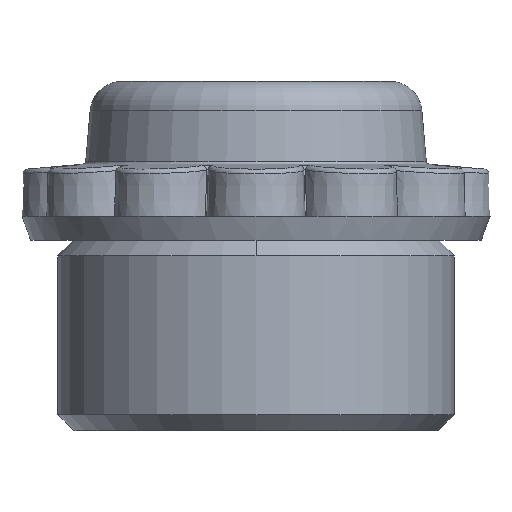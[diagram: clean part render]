
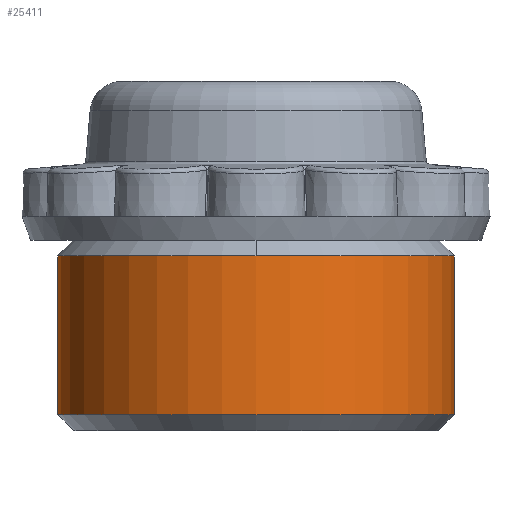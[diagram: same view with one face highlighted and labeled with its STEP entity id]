
A CAD part, left-side view. The second image highlights one B-rep face of the part: STEP entity #25411.
In plain terms, the highlighted cylindrical face has radius 12.5 mm (diameter 25 mm), a partial arc.
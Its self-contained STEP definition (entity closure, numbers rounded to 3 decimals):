
#8324 = VECTOR ( 'NONE', #8390, 1000. ) ;
#8325 = CARTESIAN_POINT ( 'NONE',  ( 0., 12.5, 0. ) ) ;
#8326 = LINE ( 'NONE', #8325, #8324 ) ;
#8384 = CARTESIAN_POINT ( 'NONE',  ( 0., -12.5, -11. ) ) ;
#8390 = DIRECTION ( 'NONE',  ( 0., 0., 1. ) ) ;
#8525 = CARTESIAN_POINT ( 'NONE',  ( 0., 12.5, -21. ) ) ;
#8583 = CARTESIAN_POINT ( 'NONE',  ( 0., -12.5, -21. ) ) ;
#8948 = DIRECTION ( 'NONE',  ( 0., 0., 1. ) ) ;
#8949 = AXIS2_PLACEMENT_3D ( 'NONE', #8955, #8948, #9010 ) ;
#8950 = CIRCLE ( 'NONE', #8949, 12.5 ) ;
#8955 = CARTESIAN_POINT ( 'NONE',  ( 0., 0., -11. ) ) ;
#8999 = CARTESIAN_POINT ( 'NONE',  ( -12.5, 0., -11. ) ) ;
#9010 = DIRECTION ( 'NONE',  ( 1., 0., 0. ) ) ;
#9084 = CARTESIAN_POINT ( 'NONE',  ( 0., 12.5, -11. ) ) ;
#9456 = DIRECTION ( 'NONE',  ( 0., 0., 1. ) ) ;
#9457 = VECTOR ( 'NONE', #9456, 1000. ) ;
#9458 = CARTESIAN_POINT ( 'NONE',  ( 0., -12.5, 0. ) ) ;
#9459 = LINE ( 'NONE', #9458, #9457 ) ;
#10478 = CIRCLE ( 'NONE', #10540, 12.5 ) ;
#10507 = CARTESIAN_POINT ( 'NONE',  ( 0., 0., 0. ) ) ;
#10523 = FACE_OUTER_BOUND ( 'NONE', #25170, .T. ) ;
#10537 = DIRECTION ( 'NONE',  ( 0., -1., 0. ) ) ;
#10538 = DIRECTION ( 'NONE',  ( 0., 0., 1. ) ) ;
#10539 = CARTESIAN_POINT ( 'NONE',  ( 0., 0., -21. ) ) ;
#10540 = AXIS2_PLACEMENT_3D ( 'NONE', #10539, #10538, #10537 ) ;
#10566 = DIRECTION ( 'NONE',  ( 1., 0., 0. ) ) ;
#10567 = DIRECTION ( 'NONE',  ( 0., 0., 1. ) ) ;
#10568 = AXIS2_PLACEMENT_3D ( 'NONE', #10574, #10567, #10566 ) ;
#10569 = CIRCLE ( 'NONE', #10568, 12.5 ) ;
#10570 = DIRECTION ( 'NONE',  ( 0., -1., 0. ) ) ;
#10571 = DIRECTION ( 'NONE',  ( 0., 0., 1. ) ) ;
#10572 = AXIS2_PLACEMENT_3D ( 'NONE', #10507, #10571, #10570 ) ;
#10573 = CYLINDRICAL_SURFACE ( 'NONE', #10572, 12.5 ) ;
#10574 = CARTESIAN_POINT ( 'NONE',  ( 0., 0., -11. ) ) ;
#23524 = EDGE_CURVE ( 'NONE', #23685, #24070, #8326, .T. ) ;
#23531 = VERTEX_POINT ( 'NONE', #8384 ) ;
#23685 = VERTEX_POINT ( 'NONE', #8525 ) ;
#23691 = VERTEX_POINT ( 'NONE', #8583 ) ;
#23931 = EDGE_CURVE ( 'NONE', #24070, #23938, #8950, .T. ) ;
#23938 = VERTEX_POINT ( 'NONE', #8999 ) ;
#24070 = VERTEX_POINT ( 'NONE', #9084 ) ;
#24514 = EDGE_CURVE ( 'NONE', #23691, #23531, #9459, .T. ) ;
#25170 = EDGE_LOOP ( 'NONE', ( #25244, #25245, #25414, #25416, #25425 ) ) ;
#25244 = ORIENTED_EDGE ( 'NONE', *, *, #23524, .F. ) ;
#25245 = ORIENTED_EDGE ( 'NONE', *, *, #25396, .T. ) ;
#25396 = EDGE_CURVE ( 'NONE', #23685, #23691, #10478, .T. ) ;
#25411 = ADVANCED_FACE ( 'NONE', ( #10523 ), #10573, .T. ) ;
#25414 = ORIENTED_EDGE ( 'NONE', *, *, #24514, .T. ) ;
#25416 = ORIENTED_EDGE ( 'NONE', *, *, #25418, .F. ) ;
#25418 = EDGE_CURVE ( 'NONE', #23938, #23531, #10569, .T. ) ;
#25425 = ORIENTED_EDGE ( 'NONE', *, *, #23931, .F. ) ;
